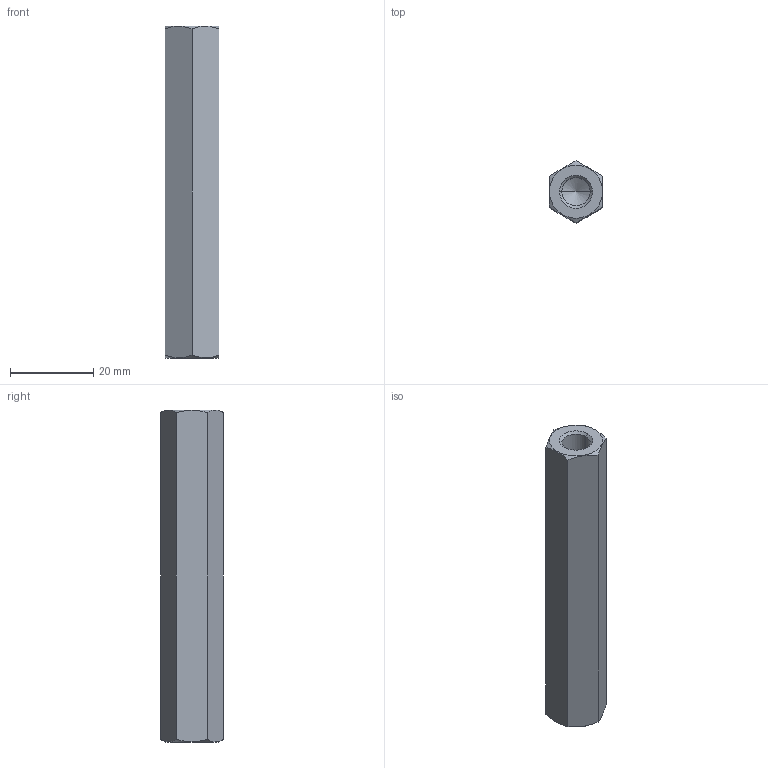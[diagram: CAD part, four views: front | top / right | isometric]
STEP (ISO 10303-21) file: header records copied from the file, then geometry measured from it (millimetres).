
FILE_DESCRIPTION (( 'STEP AP214' ), '1' );
FILE_NAME ('6220-ST-M8-80-A.step', '2019-02-25T07:43:28', ( 'user' ), ( '' ), 'SwSTEP 2.0', 'SolidWorks 2017', '' );
FILE_SCHEMA (( 'AUTOMOTIVE_DESIGN' ));
Length unit declared in the file: millimetre
Products named in the file (1): 6220-ST-M8-80-A
Bounding box: 13 x 15.01 x 80 mm (x, y, z)
Volume: 10177.3 mm3; surface area: 4738.8 mm2
Topology: 1 solids, 1 shells, 24 faces, 58 edges, 34 vertices
Faces by surface type: cone 12, plane 8, cylinder 4
Entity records: 840 total; most frequent: CARTESIAN_POINT 241, ORIENTED_EDGE 108, DIRECTION 104, EDGE_CURVE 54, AXIS2_PLACEMENT_3D 41, VERTEX_POINT 34, EDGE_LOOP 26, ADVANCED_FACE 24
